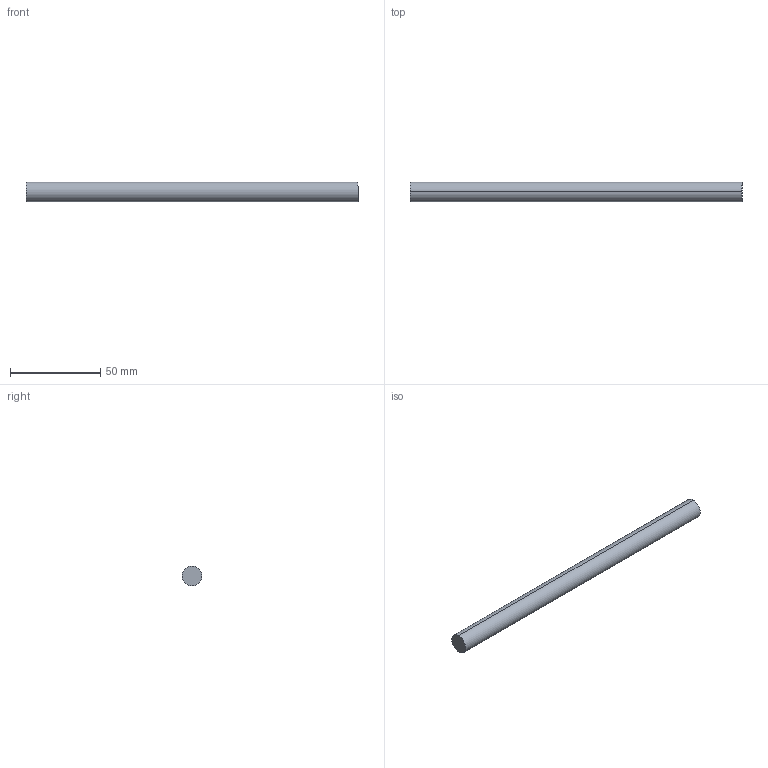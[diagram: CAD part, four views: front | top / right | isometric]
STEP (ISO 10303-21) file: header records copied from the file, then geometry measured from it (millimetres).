
FILE_DESCRIPTION (( 'STEP AP214' ), '1' );
FILE_NAME ('Querreling_Frontblende_Innenlade_KS-19_25mm-Halter_KAB-300.step', '2010-09-22T15:05:42', ( 'grass' ), ( '' ), 'SwSTEP 2.0', 'SolidWorks 2010', '' );
FILE_SCHEMA (( 'AUTOMOTIVE_DESIGN' ));
Length unit declared in the file: millimetre
Products named in the file (1): Querreling_Frontblende_Innenlade_KS-19_25mm-Halter_KAB-300
Bounding box: 184 x 11 x 11 mm (x, y, z)
Volume: 17486.1 mm3; surface area: 6548.6 mm2
Topology: 1 solids, 1 shells, 4 faces, 6 edges, 4 vertices
Faces by surface type: cylinder 2, plane 2
Entity records: 128 total; most frequent: DIRECTION 20, CARTESIAN_POINT 15, ORIENTED_EDGE 12, AXIS2_PLACEMENT_3D 9, EDGE_CURVE 6, EDGE_LOOP 4, CIRCLE 4, FACE_OUTER_BOUND 4
